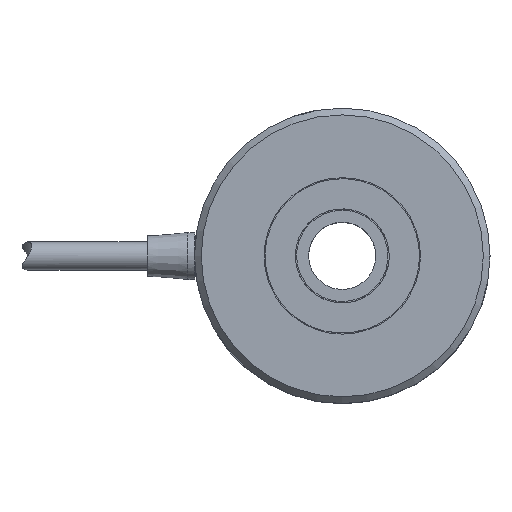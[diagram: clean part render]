
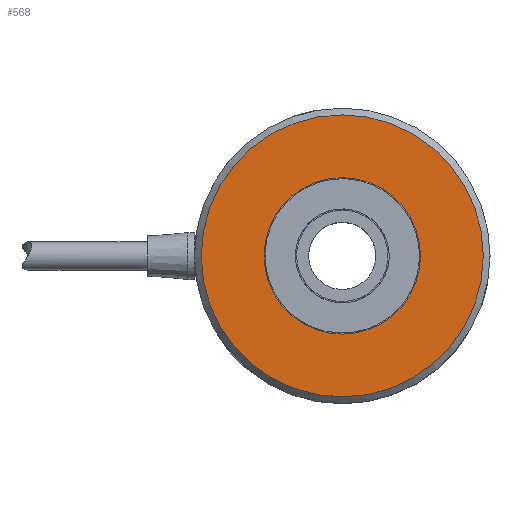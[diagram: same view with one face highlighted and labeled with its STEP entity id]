
A CAD part, top view. The second image highlights one B-rep face of the part: STEP entity #568.
In plain terms, the highlighted planar face has unit normal (0, 0, 1).
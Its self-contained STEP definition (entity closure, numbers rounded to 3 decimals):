
#568=ADVANCED_FACE('',(#950,#951),#952,.F.);
#950=FACE_OUTER_BOUND('',#1328,.T.);
#951=FACE_BOUND('',#1329,.T.);
#952=PLANE('',#1330);
#1328=EDGE_LOOP('',(#1813));
#1329=EDGE_LOOP('',(#1814));
#1330=AXIS2_PLACEMENT_3D('',#1815,#1816,#1817);
#1813=ORIENTED_EDGE('',*,*,#2224,.T.);
#1814=ORIENTED_EDGE('',*,*,#2268,.T.);
#1815=CARTESIAN_POINT('',(0.,16.825,21.9));
#1816=DIRECTION('',(0.,0.,-1.0));
#1817=DIRECTION('',(0.,-1.0,0.));
#2224=EDGE_CURVE('',#2514,#2514,#2515,.F.);
#2268=EDGE_CURVE('',#2571,#2571,#2572,.T.);
#2514=VERTEX_POINT('',#3081);
#2515=CIRCLE('',#3082,21.0);
#2571=VERTEX_POINT('',#3241);
#2572=CIRCLE('',#3242,11.65);
#3081=CARTESIAN_POINT('',(0.,-21.0,21.9));
#3082=AXIS2_PLACEMENT_3D('',#3671,#3672,#3673);
#3241=CARTESIAN_POINT('',(0.,-11.65,21.9));
#3242=AXIS2_PLACEMENT_3D('',#3709,#3710,#3711);
#3671=CARTESIAN_POINT('',(0.,0.,21.9));
#3672=DIRECTION('',(0.,0.,-1.0));
#3673=DIRECTION('',(0.,-1.0,0.));
#3709=CARTESIAN_POINT('',(0.,0.,21.9));
#3710=DIRECTION('',(0.,0.,-1.0));
#3711=DIRECTION('',(0.,-1.0,0.));
